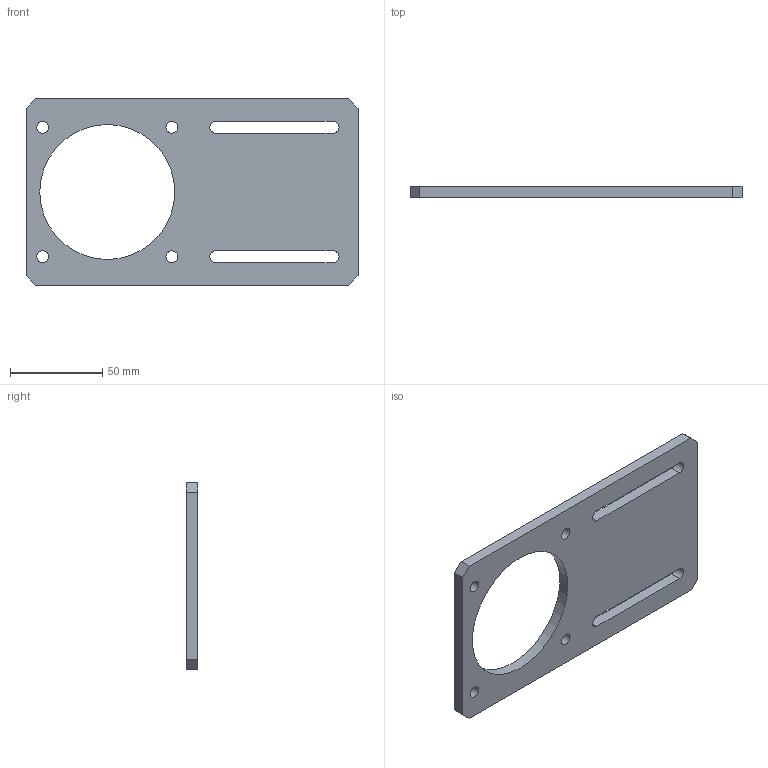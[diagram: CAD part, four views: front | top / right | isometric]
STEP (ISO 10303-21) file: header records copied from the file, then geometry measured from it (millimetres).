
FILE_DESCRIPTION(/* description */ (''),/* implementation_level */ '2;1');
FILE_NAME(/* name */ 'C:\Users\Lukas\Documents\Inventor\Rocketronics Teile\NEMA 34 gerade.stp',/* time_stamp */ '2026-03-17T17:08:34+01:00',/* author */ ('Lukas'),/* organization */ (''),/* preprocessor_version */ 'ST-DEVELOPER v19',/* originating_system */ 'Autodesk Inventor 2023',/* authorisation */ '');
FILE_SCHEMA (('AUTOMOTIVE_DESIGN { 1 0 10303 214 3 1 1 }'));
Length unit declared in the file: millimetre
Products named in the file (1): NEMA 34 gerade
Bounding box: 180 x 6.15 x 101 mm (x, y, z)
Volume: 79329.4 mm3; surface area: 32908.4 mm2
Topology: 1 solids, 1 shells, 23 faces, 63 edges, 42 vertices
Faces by surface type: plane 14, cylinder 9
Full cylindrical faces by diameter (mm): 6.45 x4, 73.2 x1
Entity records: 806 total; most frequent: DIRECTION 129, CARTESIAN_POINT 129, ORIENTED_EDGE 126, EDGE_CURVE 63, LINE 45, VECTOR 45, VERTEX_POINT 42, AXIS2_PLACEMENT_3D 42
